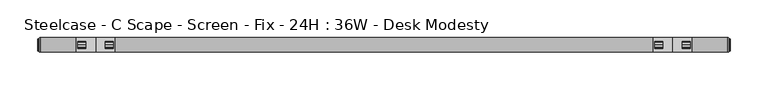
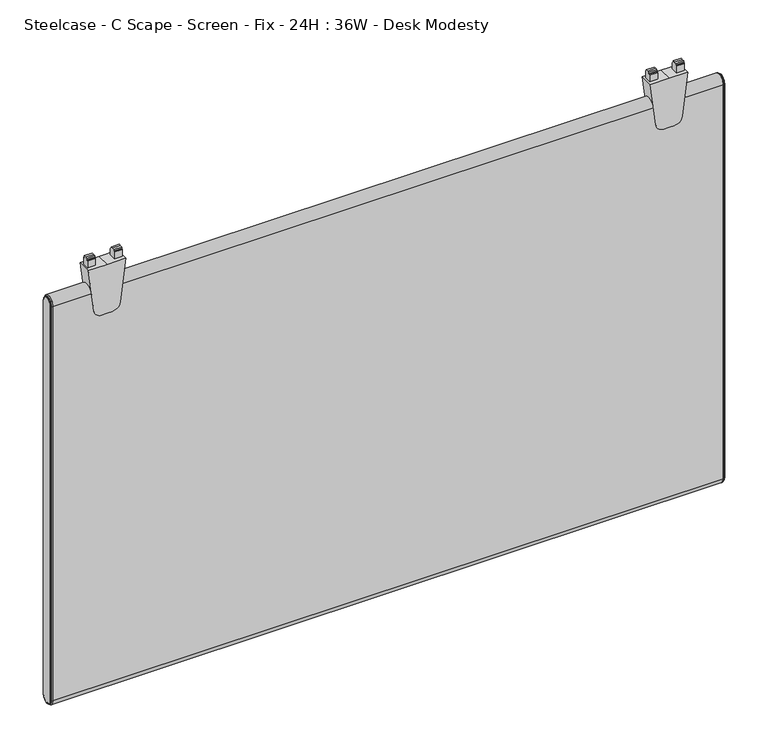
"""IFC4 building model written with IfcOpenShell, lengths in millimetres: furniture geometry, Steelcase - C Scape - Screen - Fix - 24H : 36W - Desk Modesty."""

from ifc_helpers import new_model, si_unit, point, frame, frame_2d, origin, place, context, project, spatial, polyline, circle_curve, ellipse_curve, trimmed, segment, composite_curve, outline, extrude, source, transform, mapped, element, save
from ifc_brep_helpers import plane_surface, cylinder_surface, revolved_surface, advanced_brep


def steelcase_c_scape_screen_fix_24h_36w_desk_modesty_d90118ce(model_context):
    return source(origin(), model_context, "Body", "SolidModel", [
        extrude(outline(composite_curve([segment(polyline([(703.414888, 101.4730434), (703.414888, 76.2001674), (703.414888, 50.9272915), (643.0897579, 58.3341853)]), True, "CONTINUOUS"), segment(trimmed(circle_curve(frame_2d((644.4116282, 69.1001018)), 10.8467645), [point((643.0897579, 58.3341853))], [point((633.5648638, 69.1001018))], False, "CARTESIAN"), True, "CONTINUOUS"), segment(polyline([(633.5648638, 69.1001018), (633.5648638, 76.2001674), (633.5648638, 83.300233)]), True, "CONTINUOUS"), segment(trimmed(circle_curve(frame_2d((644.4116282, 83.300233)), 10.8467645), [point((633.5648638, 83.300233))], [point((643.0897579, 94.0661495))], False, "CARTESIAN"), True, "CONTINUOUS"), segment(polyline([(643.0897579, 94.0661495), (703.414888, 101.4730434)]), True, "CONTINUOUS")], self_intersect=False)), frame((0.0, -9.525, 0.0), z_axis=(0.0, 1.0, 0.0), x_axis=(0.0, 0.0, 1.0)), (0.0, 0.0, 1.0), 19.05),
        extrude(outline(polyline([(-4.5465975, 703.414888), (-4.5465975, 713.3208967), (-4.0139265, 714.2073252), (-2.9972008, 714.2073252), (-2.9972008, 716.4425812), (0.0, 716.534), (2.9972008, 716.4425812), (2.9972008, 714.2073252), (4.0139265, 714.2073252), (4.5465975, 713.3208967), (4.5465975, 703.414888), (0.0, 703.414888), (-4.5465975, 703.414888)])), frame((88.9267162, 0.0, 0.0), z_axis=(1.0, 0.0, 0.0), x_axis=(0.0, 1.0, 0.0)), (0.0, 0.0, 1.0), 10.7813187),
        extrude(outline(polyline([(-4.5465975, 703.414888), (-4.5465975, 713.3208967), (-4.0139265, 714.2073252), (-2.9972008, 714.2073252), (-2.9972008, 716.4425812), (0.0, 716.534), (2.9972008, 716.4425812), (2.9972008, 714.2073252), (4.0139265, 714.2073252), (4.5465975, 713.3208967), (4.5465975, 703.414888), (0.0, 703.414888), (-4.5465975, 703.414888)])), frame((52.6923, 0.0, 0.0), z_axis=(1.0, 0.0, 0.0), x_axis=(0.0, 1.0, 0.0)), (0.0, 0.0, 1.0), 10.7813187),
        extrude(outline(composite_curve([segment(polyline([(703.414888, 862.7107132), (703.414888, 837.4378372), (703.414888, 812.1649612), (643.0897579, 819.5718551)]), True, "CONTINUOUS"), segment(trimmed(circle_curve(frame_2d((644.4116282, 830.3377716)), 10.8467645), [point((643.0897579, 819.5718551))], [point((633.5648638, 830.3377716))], False, "CARTESIAN"), True, "CONTINUOUS"), segment(polyline([(633.5648638, 830.3377716), (633.5648638, 837.4378372), (633.5648638, 844.5379028)]), True, "CONTINUOUS"), segment(trimmed(circle_curve(frame_2d((644.4116282, 844.5379028)), 10.8467645), [point((633.5648638, 844.5379028))], [point((643.0897579, 855.3038193))], False, "CARTESIAN"), True, "CONTINUOUS"), segment(polyline([(643.0897579, 855.3038193), (703.414888, 862.7107132)]), True, "CONTINUOUS")], self_intersect=False)), frame((0.0, -9.525, 0.0), z_axis=(0.0, 1.0, 0.0), x_axis=(0.0, 0.0, 1.0)), (0.0, 0.0, 1.0), 19.05),
        extrude(outline(polyline([(-4.5465975, 703.414888), (-4.5465975, 713.3208967), (-4.0139265, 714.2073252), (-2.9972008, 714.2073252), (-2.9972008, 716.4425812), (0.0, 716.534), (2.9972008, 716.4425812), (2.9972008, 714.2073252), (4.0139265, 714.2073252), (4.5465975, 713.3208967), (4.5465975, 703.414888), (0.0, 703.414888), (-4.5465975, 703.414888)])), frame((850.164386, 0.0, 0.0), z_axis=(1.0, 0.0, 0.0), x_axis=(0.0, 1.0, 0.0)), (0.0, 0.0, 1.0), 10.7813187),
        extrude(outline(polyline([(-4.5465975, 703.414888), (-4.5465975, 713.3208967), (-4.0139265, 714.2073252), (-2.9972008, 714.2073252), (-2.9972008, 716.4425812), (0.0, 716.534), (2.9972008, 716.4425812), (2.9972008, 714.2073252), (4.0139265, 714.2073252), (4.5465975, 713.3208967), (4.5465975, 703.414888), (0.0, 703.414888), (-4.5465975, 703.414888)])), frame((813.9299698, 0.0, 0.0), z_axis=(1.0, 0.0, 0.0), x_axis=(0.0, 1.0, 0.0)), (0.0, 0.0, 1.0), 10.7813187),
        advanced_brep(
        [(910.8486613, -9.525, 668.909), (910.8486613, 9.525, 668.909), (910.8486613, 9.525, 103.759), (910.8486613, -9.525, 103.759), (913.6426613, 7.4929583, 668.909), (913.6426613, -7.4929583, 668.909), (913.6426613, -7.4929583, 103.759), (913.6426613, 7.4929583, 103.759), (913.1346545, -8.0009651, 668.909), (913.1346545, 8.0009651, 668.909), (911.8646613, 8.0009651, 668.909), (911.8646613, -8.0009651, 668.909), (911.8646613, -8.8204932, 668.909), (911.8646613, 8.8204932, 668.909), (911.8646613, -8.0009651, 103.759), (913.1346545, -8.0009651, 103.759), (911.8646613, -8.8204932, 103.759), (911.8646613, 8.0009651, 103.759), (913.1346545, 8.0009651, 103.759), (911.8646613, 8.8204932, 103.759)],
        [
            (0, 1, circle_curve(frame((910.8486613, 0.0, 668.909), z_axis=(-1.0, 0.0, 0.0), x_axis=(0.0, 1.0, 0.0)), 9.525)),
            (1, 2),
            (2, 3, circle_curve(frame((910.8486613, 0.0, 103.759), z_axis=(-1.0, 0.0, 0.0), x_axis=(0.0, -1.0, 0.0)), 9.525)),
            (3, 0),
            (4, 5, circle_curve(frame((913.6426613, 0.0, 668.909), z_axis=(1.0, 0.0, 0.0), x_axis=(0.0, 1.0, 0.0)), 7.4929583)),
            (5, 6),
            (6, 7, circle_curve(frame((913.6426613, 0.0, 103.759), z_axis=(1.0, 0.0, 0.0), x_axis=(0.0, -1.0, 0.0)), 7.4929583)),
            (7, 4),
            (8, 9, circle_curve(frame((913.1346545, 0.0, 668.909), z_axis=(-1.0, 0.0, 0.0), x_axis=(0.0, 1.0, 0.0)), 8.0009651)),
            (9, 10),
            (10, 11, circle_curve(frame((911.8646613, 0.0, 668.909), z_axis=(1.0, 0.0, 0.0), x_axis=(0.0, 1.0, 0.0)), 8.0009651)),
            (11, 8),
            (8, 5, circle_curve(frame((913.1346545, -7.4929583, 668.909), z_axis=(0.0, 0.0, 1.0), x_axis=(0.0, -1.0, 0.0)), 0.5080068)),
            (4, 9, circle_curve(frame((913.1346545, 7.4929583, 668.909), z_axis=(0.0, 0.0, 1.0), x_axis=(0.0, 1.0, 0.0)), 0.5080068)),
            (12, 13, circle_curve(frame((911.8646613, 0.0, 668.909), z_axis=(-1.0, 0.0, 0.0), x_axis=(0.0, 1.0, 0.0)), 8.8204932)),
            (13, 1, circle_curve(frame((910.7806211, 8.3420139, 668.909), z_axis=(0.0, 0.0, 1.0), x_axis=(0.0, 1.0, 0.0)), 1.1849411)),
            (0, 12, circle_curve(frame((910.7806211, -8.3420139, 668.909), z_axis=(0.0, 0.0, 1.0), x_axis=(0.0, -1.0, 0.0)), 1.1849411)),
            (11, 14),
            (14, 15),
            (15, 8),
            (15, 6, circle_curve(frame((913.1346545, -7.4929583, 103.759), z_axis=(0.0, 0.0, 1.0), x_axis=(0.0, -1.0, 0.0)), 0.5080068)),
            (3, 16, circle_curve(frame((910.7806211, -8.3420139, 103.759), z_axis=(0.0, 0.0, 1.0), x_axis=(0.0, -1.0, 0.0)), 1.1849411)),
            (16, 12),
            (14, 17, circle_curve(frame((911.8646613, 0.0, 103.759), z_axis=(1.0, 0.0, 0.0), x_axis=(0.0, -1.0, 0.0)), 8.0009651)),
            (17, 18),
            (18, 15, circle_curve(frame((913.1346545, 0.0, 103.759), z_axis=(-1.0, 0.0, 0.0), x_axis=(0.0, -1.0, 0.0)), 8.0009651)),
            (18, 7, circle_curve(frame((913.1346545, 7.4929583, 103.759), z_axis=(0.0, 0.0, -1.0), x_axis=(0.0, 1.0, 0.0)), 0.5080068)),
            (2, 19, circle_curve(frame((910.7806211, 8.3420139, 103.759), z_axis=(0.0, 0.0, -1.0), x_axis=(0.0, 1.0, 0.0)), 1.1849411)),
            (19, 16, circle_curve(frame((911.8646613, 0.0, 103.759), z_axis=(-1.0, 0.0, 0.0), x_axis=(0.0, -1.0, 0.0)), 8.8204932)),
            (9, 18),
            (17, 10),
            (13, 19),
        ],
        [
            plane_surface(frame((910.8486613, -6.3509705, 668.909), z_axis=(-1.0, 0.0, 0.0), x_axis=(0.0, 0.0, 1.0))),
            plane_surface(frame((913.6426613, -6.3509705, 668.909), z_axis=(1.0, 0.0, 0.0), x_axis=(0.0, 0.0, -1.0))),
            cylinder_surface(frame((910.8486613, 0.0, 668.909), z_axis=(1.0, 0.0, 0.0), x_axis=(0.0, 1.0, 0.0)), 8.0009651),
            revolved_surface(trimmed(ellipse_curve(frame((913.1346545, 7.4929583, 668.909), z_axis=(0.0, 0.0, -1.0), x_axis=(0.0, 1.0, 0.0)), 0.5080068, 0.5080068), [point((913.1346545, 8.0009651, 668.909))], [point((913.6426613, 7.4929583, 668.909))], True, "CARTESIAN"), (910.8486613, 0.0, 668.909), (1.0, 0.0, 0.0)),
            revolved_surface(trimmed(ellipse_curve(frame((910.7806211, 8.3420139, 668.909), z_axis=(0.0, 0.0, -1.0), x_axis=(0.0, 1.0, 0.0)), 1.1849411, 1.1849411), [point((910.8486613, 9.525, 668.909))], [point((911.8646613, 8.8204932, 668.909))], True, "CARTESIAN"), (910.8486613, 0.0, 668.909), (1.0, 0.0, 0.0)),
            plane_surface(frame((911.8646613, -8.0009651, 668.909), z_axis=(0.0, -1.0, 0.0), x_axis=(0.0, 0.0, -1.0))),
            cylinder_surface(frame((913.1346545, -7.4929583, 668.909), z_axis=(0.0, 0.0, 1.0), x_axis=(0.0, -1.0, 0.0)), 0.5080068),
            cylinder_surface(frame((910.7806211, -8.3420139, 668.909), z_axis=(0.0, 0.0, 1.0), x_axis=(0.0, -1.0, 0.0)), 1.1849411),
            cylinder_surface(frame((910.8486613, 0.0, 103.759), z_axis=(1.0, 0.0, 0.0), x_axis=(0.0, -1.0, 0.0)), 8.0009651),
            revolved_surface(trimmed(ellipse_curve(frame((913.1346545, -7.4929583, 103.759), z_axis=(0.0, 0.0, 1.0), x_axis=(0.0, -1.0, 0.0)), 0.5080068, 0.5080068), [point((913.1346545, -8.0009651, 103.759))], [point((913.6426613, -7.4929583, 103.759))], True, "CARTESIAN"), (910.8486613, 0.0, 103.759), (1.0, 0.0, 0.0)),
            revolved_surface(trimmed(ellipse_curve(frame((910.7806211, -8.3420139, 103.759), z_axis=(0.0, 0.0, 1.0), x_axis=(0.0, -1.0, 0.0)), 1.1849411, 1.1849411), [point((910.8486613, -9.525, 103.759))], [point((911.8646613, -8.8204932, 103.759))], True, "CARTESIAN"), (910.8486613, 0.0, 103.759), (1.0, 0.0, 0.0)),
            plane_surface(frame((911.8646613, 8.0009651, 103.759), z_axis=(0.0, 1.0, 0.0), x_axis=(0.0, 0.0, 1.0))),
            cylinder_surface(frame((913.1346545, 7.4929583, 103.759), z_axis=(0.0, 0.0, -1.0), x_axis=(0.0, 1.0, 0.0)), 0.5080068),
            cylinder_surface(frame((910.7806211, 8.3420139, 103.759), z_axis=(0.0, 0.0, -1.0), x_axis=(0.0, 1.0, 0.0)), 1.1849411),
            plane_surface(frame((911.8646613, 8.8204932, 103.759), z_axis=(1.0, 0.0, 0.0), x_axis=(0.0, 0.0, 1.0))),
        ],
        [
            (0, [[1, 2, 3, 4]]),
            (1, [[5, 6, 7, 8]]),
            (2, [[9, 10, 11, 12]]),
            (3, [[-9, 13, -5, 14]]),
            (4, [[15, 16, -1, 17]]),
            (5, [[-12, 18, 19, 20]]),
            (6, [[-13, -20, 21, -6]]),
            (7, [[-17, -4, 22, 23]]),
            (8, [[-19, 24, 25, 26]]),
            (9, [[-21, -26, 27, -7]]),
            (10, [[-22, -3, 28, 29]]),
            (11, [[-10, 30, -25, 31]]),
            (12, [[-14, -8, -27, -30]]),
            (13, [[-16, 32, -28, -2]]),
            (14, [[-15, -23, -29, -32], [-11, -31, -24, -18]]),
        ],
    ),
        advanced_brep(
        [(2.7940155, 9.525, 668.909), (2.7940155, -9.525, 668.909), (2.7940155, -9.525, 103.759), (2.7940155, 9.525, 103.759), (0.0, -7.4929583, 668.909), (0.0, 7.4929583, 668.909), (0.0, 7.4929583, 103.759), (0.0, -7.4929583, 103.759), (1.778, 8.8204932, 668.909), (1.778, -8.8204932, 668.909), (0.5080068, -8.0009651, 668.909), (0.5080068, 8.0009651, 668.909), (1.778, -8.0009651, 668.909), (1.778, 8.0009651, 668.909), (1.778, -8.8204932, 103.759), (0.5080068, -8.0009651, 103.759), (1.778, -8.0009651, 103.759), (1.778, 8.8204932, 103.759), (0.5080068, 8.0009651, 103.759), (1.778, 8.0009651, 103.759)],
        [
            (0, 1, circle_curve(frame((2.7940155, 0.0, 668.909), z_axis=(1.0, 0.0, 0.0), x_axis=(0.0, 1.0, 0.0)), 9.525)),
            (1, 2),
            (2, 3, circle_curve(frame((2.7940155, 0.0, 103.759), z_axis=(1.0, 0.0, 0.0), x_axis=(0.0, -1.0, 0.0)), 9.525)),
            (3, 0),
            (4, 5, circle_curve(frame((0.0, 0.0, 668.909), z_axis=(-1.0, 0.0, 0.0), x_axis=(0.0, 1.0, 0.0)), 7.4929583)),
            (5, 6),
            (6, 7, circle_curve(frame((0.0, 0.0, 103.759), z_axis=(-1.0, 0.0, 0.0), x_axis=(0.0, -1.0, 0.0)), 7.4929583)),
            (7, 4),
            (0, 8, circle_curve(frame((2.8620402, 8.3420139, 668.909), z_axis=(0.0, 0.0, 1.0), x_axis=(0.0, -1.0, 0.0)), 1.1849411)),
            (8, 9, circle_curve(frame((1.778, 0.0, 668.909), z_axis=(1.0, 0.0, 0.0), x_axis=(0.0, 1.0, 0.0)), 8.8204932)),
            (9, 1, circle_curve(frame((2.8620402, -8.3420139, 668.909), z_axis=(0.0, 0.0, 1.0), x_axis=(0.0, 1.0, 0.0)), 1.1849411)),
            (10, 11, circle_curve(frame((0.5080068, 0.0, 668.909), z_axis=(-1.0, 0.0, 0.0), x_axis=(0.0, 1.0, 0.0)), 8.0009651)),
            (11, 5, circle_curve(frame((0.5080068, 7.4929583, 668.909), z_axis=(0.0, 0.0, 1.0), x_axis=(0.0, -1.0, 0.0)), 0.5080068)),
            (4, 10, circle_curve(frame((0.5080068, -7.4929583, 668.909), z_axis=(0.0, 0.0, 1.0), x_axis=(0.0, 1.0, 0.0)), 0.5080068)),
            (10, 12),
            (12, 13, circle_curve(frame((1.778, 0.0, 668.909), z_axis=(-1.0, 0.0, 0.0), x_axis=(0.0, 1.0, 0.0)), 8.0009651)),
            (13, 11),
            (9, 14),
            (14, 2, circle_curve(frame((2.8620402, -8.3420139, 103.759), z_axis=(0.0, 0.0, 1.0), x_axis=(0.0, 1.0, 0.0)), 1.1849411)),
            (7, 15, circle_curve(frame((0.5080068, -7.4929583, 103.759), z_axis=(0.0, 0.0, 1.0), x_axis=(0.0, 1.0, 0.0)), 0.5080068)),
            (15, 10),
            (15, 16),
            (16, 12),
            (14, 17, circle_curve(frame((1.778, 0.0, 103.759), z_axis=(1.0, 0.0, 0.0), x_axis=(0.0, -1.0, 0.0)), 8.8204932)),
            (17, 3, circle_curve(frame((2.8620402, 8.3420139, 103.759), z_axis=(0.0, 0.0, -1.0), x_axis=(0.0, -1.0, 0.0)), 1.1849411)),
            (6, 18, circle_curve(frame((0.5080068, 7.4929583, 103.759), z_axis=(0.0, 0.0, -1.0), x_axis=(0.0, -1.0, 0.0)), 0.5080068)),
            (18, 15, circle_curve(frame((0.5080068, 0.0, 103.759), z_axis=(-1.0, 0.0, 0.0), x_axis=(0.0, -1.0, 0.0)), 8.0009651)),
            (18, 19),
            (19, 16, circle_curve(frame((1.778, 0.0, 103.759), z_axis=(-1.0, 0.0, 0.0), x_axis=(0.0, -1.0, 0.0)), 8.0009651)),
            (8, 17),
            (19, 13),
            (11, 18),
        ],
        [
            plane_surface(frame((2.7940155, -6.3509705, 668.909), z_axis=(1.0, 0.0, 0.0), x_axis=(0.0, 0.0, -1.0))),
            plane_surface(frame((0.0, -6.3509705, 668.909), z_axis=(-1.0, 0.0, 0.0), x_axis=(0.0, 0.0, 1.0))),
            revolved_surface(trimmed(ellipse_curve(frame((2.8620402, 8.3420139, 668.909), z_axis=(0.0, 0.0, -1.0), x_axis=(0.0, -1.0, 0.0)), 1.1849411, 1.1849411), [point((1.778, 8.8204932, 668.909))], [point((2.794, 9.525, 668.909))], True, "CARTESIAN"), (2.794, 0.0, 668.909), (1.0, 0.0, 0.0)),
            revolved_surface(trimmed(ellipse_curve(frame((0.5080068, 7.4929583, 668.909), z_axis=(0.0, 0.0, -1.0), x_axis=(0.0, -1.0, 0.0)), 0.5080068, 0.5080068), [point((0.0, 7.4929583, 668.909))], [point((0.5080068, 8.0009651, 668.909))], True, "CARTESIAN"), (2.794, 0.0, 668.909), (1.0, 0.0, 0.0)),
            cylinder_surface(frame((2.794, 0.0, 668.909), z_axis=(1.0, 0.0, 0.0), x_axis=(0.0, 1.0, 0.0)), 8.0009651),
            cylinder_surface(frame((2.8620402, -8.3420139, 668.909), z_axis=(0.0, 0.0, 1.0), x_axis=(0.0, 1.0, 0.0)), 1.1849411),
            cylinder_surface(frame((0.5080068, -7.4929583, 668.909), z_axis=(0.0, 0.0, 1.0), x_axis=(0.0, 1.0, 0.0)), 0.5080068),
            plane_surface(frame((0.5080068, -8.0009651, 668.909), z_axis=(0.0, -1.0, 0.0), x_axis=(0.0, 0.0, -1.0))),
            revolved_surface(trimmed(ellipse_curve(frame((2.8620402, -8.3420139, 103.759), z_axis=(0.0, 0.0, 1.0), x_axis=(0.0, 1.0, 0.0)), 1.1849411, 1.1849411), [point((1.778, -8.8204932, 103.759))], [point((2.794, -9.525, 103.759))], True, "CARTESIAN"), (2.794, 0.0, 103.759), (1.0, 0.0, 0.0)),
            revolved_surface(trimmed(ellipse_curve(frame((0.5080068, -7.4929583, 103.759), z_axis=(0.0, 0.0, 1.0), x_axis=(0.0, 1.0, 0.0)), 0.5080068, 0.5080068), [point((0.0, -7.4929583, 103.759))], [point((0.5080068, -8.0009651, 103.759))], True, "CARTESIAN"), (2.794, 0.0, 103.759), (1.0, 0.0, 0.0)),
            cylinder_surface(frame((2.794, 0.0, 103.759), z_axis=(1.0, 0.0, 0.0), x_axis=(0.0, -1.0, 0.0)), 8.0009651),
            plane_surface(frame((1.778, 8.0009651, 103.759), z_axis=(-1.0, 0.0, 0.0), x_axis=(0.0, 0.0, 1.0))),
            cylinder_surface(frame((2.8620402, 8.3420139, 103.759), z_axis=(0.0, 0.0, -1.0), x_axis=(0.0, -1.0, 0.0)), 1.1849411),
            cylinder_surface(frame((0.5080068, 7.4929583, 103.759), z_axis=(0.0, 0.0, -1.0), x_axis=(0.0, -1.0, 0.0)), 0.5080068),
            plane_surface(frame((0.5080068, 8.0009651, 103.759), z_axis=(0.0, 1.0, 0.0), x_axis=(0.0, 0.0, 1.0))),
        ],
        [
            (0, [[1, 2, 3, 4]]),
            (1, [[5, 6, 7, 8]]),
            (2, [[-1, 9, 10, 11]]),
            (3, [[12, 13, -5, 14]]),
            (4, [[-12, 15, 16, 17]]),
            (5, [[-11, 18, 19, -2]]),
            (6, [[-14, -8, 20, 21]]),
            (7, [[-15, -21, 22, 23]]),
            (8, [[-19, 24, 25, -3]]),
            (9, [[-20, -7, 26, 27]]),
            (10, [[-22, -27, 28, 29]]),
            (11, [[-10, 30, -24, -18], [-16, -23, -29, 31]]),
            (12, [[-9, -4, -25, -30]]),
            (13, [[-13, 32, -26, -6]]),
            (14, [[-17, -31, -28, -32]]),
        ],
    ),
        extrude(outline(composite_curve([segment(trimmed(circle_curve(frame_2d((0.0, 668.909)), 9.525), [point((-9.525, 668.909))], [point((9.525, 668.909))], False, "CARTESIAN"), True, "CONTINUOUS"), segment(polyline([(9.525, 668.909), (9.525, 103.759)]), True, "CONTINUOUS"), segment(trimmed(circle_curve(frame_2d((0.0, 103.759)), 9.525), [point((9.525, 103.759))], [point((-9.525, 103.759))], False, "CARTESIAN"), True, "CONTINUOUS"), segment(polyline([(-9.525, 103.759), (-9.525, 668.909)]), True, "CONTINUOUS")], self_intersect=False)), frame((2.794, 0.0, 0.0), z_axis=(1.0, 0.0, 0.0), x_axis=(0.0, 1.0, 0.0)), (0.0, 0.0, 1.0), 908.0546613),
    ])


if __name__ == "__main__":
    model = new_model("IFC4")
    model_context = context("Model", 3, world=origin())
    ifc_project = project(units=[si_unit("LENGTHUNIT", "METRE", prefix="MILLI")], contexts=[model_context])
    site = spatial("IfcSite", under=ifc_project)
    building = spatial("IfcBuilding", under=site)
    placement = place(None, origin())
    steelcase_c_scape_screen_fix_24h_36w_desk_modesty_shape = steelcase_c_scape_screen_fix_24h_36w_desk_modesty_d90118ce(model_context)
    element("IfcFurniture", 1, ObjectType="Steelcase - C Scape - Screen - Fix - 24H : 36W - Desk Modesty", at=placement, inside=building, context=model_context, shape_type="MappedRepresentation", body=[
        mapped(steelcase_c_scape_screen_fix_24h_36w_desk_modesty_shape, transform((0.0, 0.0, 0.0), x_axis=(1.0, 0.0, 0.0), y_axis=(0.0, 1.0, 0.0), z_axis=(0.0, 0.0, 1.0))),
    ])
    save(model, "model.ifc")
